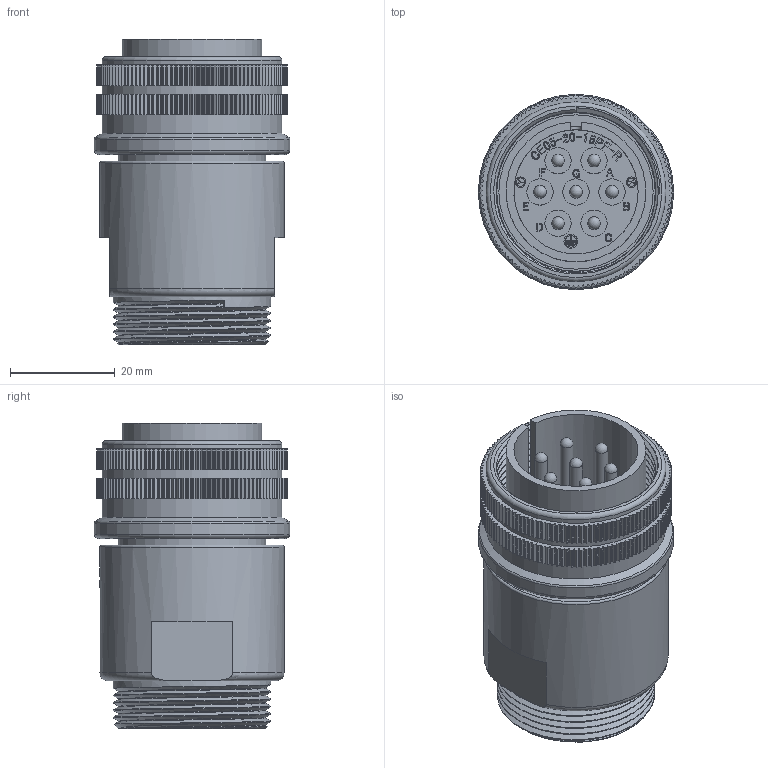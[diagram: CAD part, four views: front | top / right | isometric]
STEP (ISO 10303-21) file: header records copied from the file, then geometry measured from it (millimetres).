
FILE_DESCRIPTION (( 'STEP AP203' ), '1' );
FILE_NAME ('CE05-6A20-15PD-D-BSS.STEP', '2021-05-31T09:11:57', ( '' ), ( '' ), 'SwSTEP 2.0', 'SolidWorks 2018', '' );
FILE_SCHEMA (( 'CONFIG_CONTROL_DESIGN' ));
Length unit declared in the file: millimetre
Products named in the file (1): CE05-6A20-15PD-D-BSS
Bounding box: 37.23 x 37.23 x 58.21 mm (x, y, z)
Volume: 28539.1 mm3; surface area: 20186.3 mm2
Topology: 1 solids, 1 shells, 2384 faces, 6864 edges, 4589 vertices
Faces by surface type: cylinder 1074, plane 973, bspline 307, torus 14, cone 9, sphere 7
Full cylindrical faces by diameter (mm): 1.6 x2, 2 x2, 2.41 x7, 2.6 x2, 2.7 x7, 3.3 x7, 3.4 x6, 4.8 x6, 5 x7, 17.8 x1, 23.68 x1, 24.11 x1, 26 x1, 28.06 x1, 28.65 x1, 29.4 x1, 30.07 x4, 30.2 x1, 30.79 x1, 34.29 x3, 35.2 x1, 37.23 x1
Entity records: 90162 total; most frequent: CARTESIAN_POINT 28538, ORIENTED_EDGE 13398, DIRECTION 12294, EDGE_CURVE 6699, VERTEX_POINT 4519, AXIS2_PLACEMENT_3D 4219, LINE 3856, VECTOR 3856
